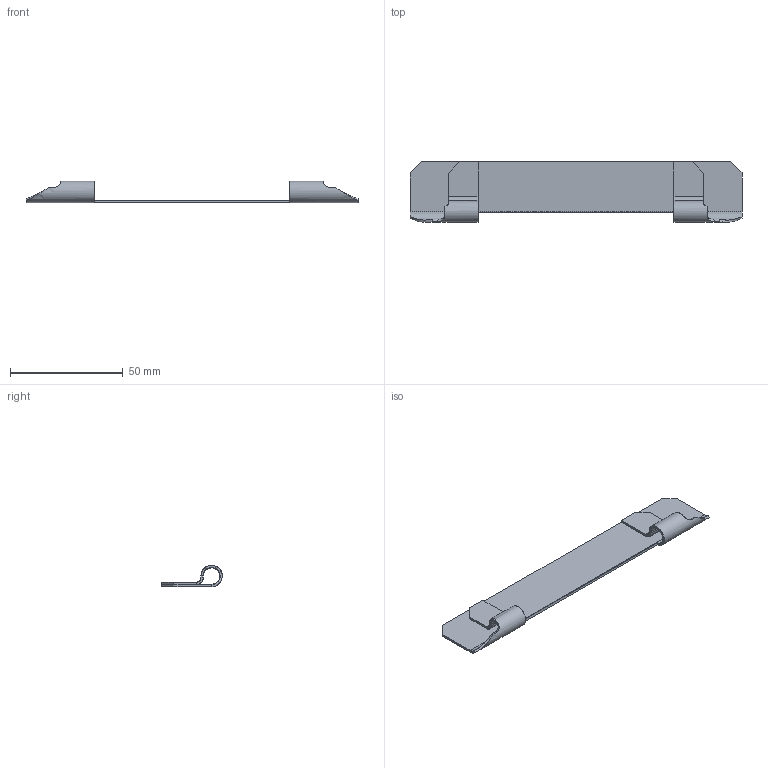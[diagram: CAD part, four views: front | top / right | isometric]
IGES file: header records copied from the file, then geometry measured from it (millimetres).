
Start section: SolidWorks IGES FILE using analytic representation for surfaces
Global section: file name: C:\Documents and Settings\lecoutey\Bureau\PO 321\321.015.000.IGS; native system: SolidWorks 2004 by SolidWorks Corporation; preprocessor: Version 5.3; author: lecoutey; date: 050408.135430; units: millimetre
Bounding box: 147.4 x 26.95 x 9.5 mm (x, y, z)
Surface area: 9640.7 mm2 (no closed solid volume)
Topology: 0 solids, 0 shells, 56 faces, 532 edges, 532 vertices
Faces by surface type: bspline 50, revolution 6
